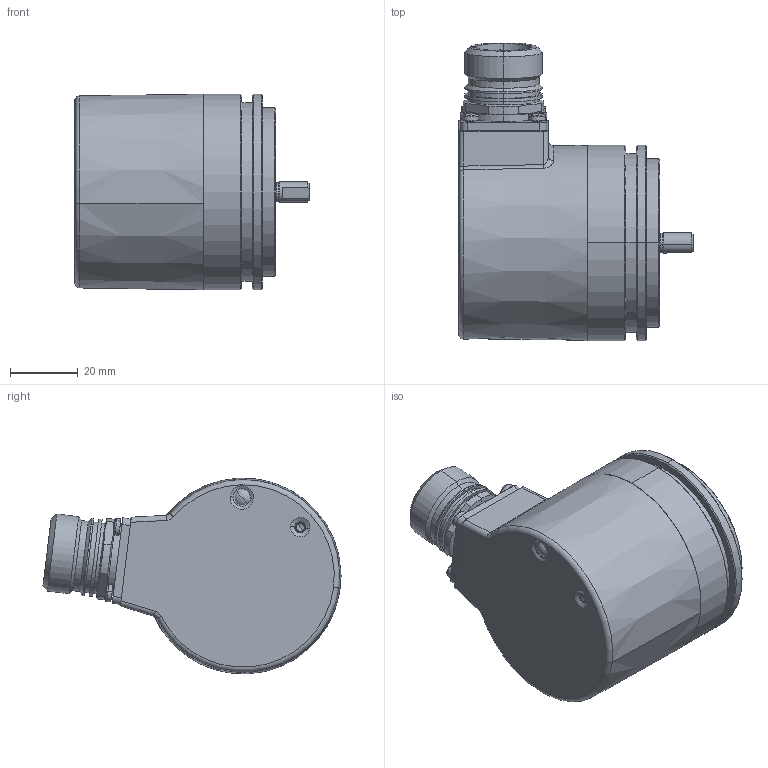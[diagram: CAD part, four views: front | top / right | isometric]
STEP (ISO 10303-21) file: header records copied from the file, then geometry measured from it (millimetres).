
FILE_DESCRIPTION (( 'STEP AP214' ), '1' );
FILE_NAME ('5863.21X4.XXXX.STEP', '2010-11-22T08:53:37', ( 'admin' ), ( 'Fritz Kübler GmbH' ), 'SwSTEP 2.0', 'SolidWorks 2009', '' );
FILE_SCHEMA (( 'AUTOMOTIVE_DESIGN' ));
Length unit declared in the file: millimetre
Products named in the file (1): 5863.21X4.XXXX
Bounding box: 69.6 x 88.28 x 58 mm (x, y, z)
Surface area: 24445.9 mm2 (no closed solid volume)
Topology: 0 solids, 34 shells, 340 faces, 878 edges, 560 vertices
Faces by surface type: cylinder 133, plane 94, cone 43, sphere 36, torus 28, bspline 6
Entity records: 15257 total; most frequent: CARTESIAN_POINT 3002, DIRECTION 2024, ORIENTED_EDGE 1544, AXIS2_PLACEMENT_3D 863, EDGE_CURVE 854, VERTEX_POINT 560, CIRCLE 528, EDGE_LOOP 392
